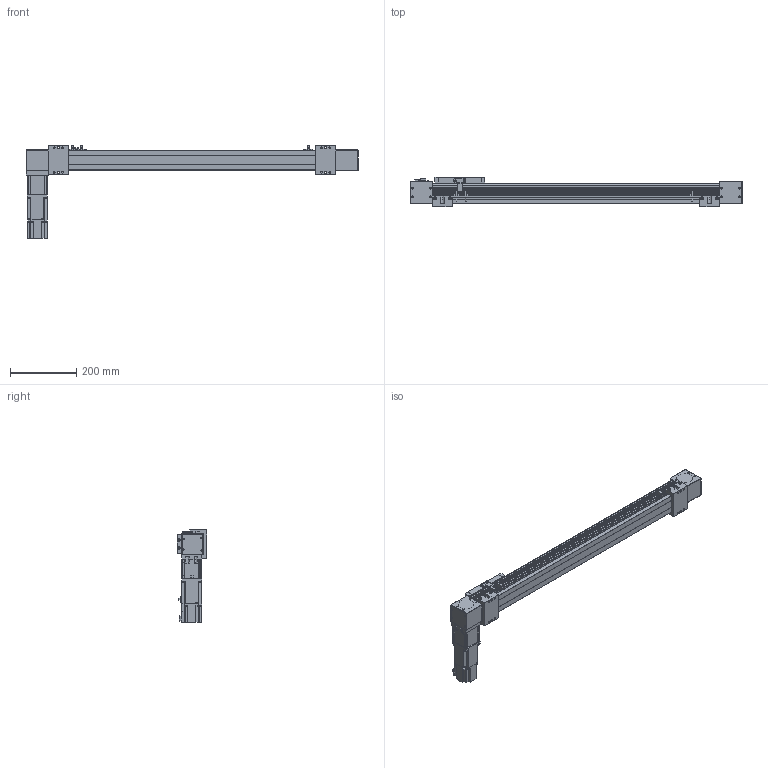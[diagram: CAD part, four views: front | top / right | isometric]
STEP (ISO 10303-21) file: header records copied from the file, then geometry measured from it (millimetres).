
FILE_DESCRIPTION(/* description */ ('STEP AP203'),/* implementation_level */ '2;1');
FILE_NAME(/* name */ 'SK60-P13-S700-BR-T40-C1-N(0)',/* time_stamp */ '2023-04-06T03:59:21+02:00',/* author */ ('License CC BY-ND 4.0'),/* organization */ ('CADENAS'),/* preprocessor_version */ 'ST-DEVELOPER v19.3',/* originating_system */ 'PARTsolutions',/* authorisation */ ' ');
FILE_SCHEMA (('CONFIG_CONTROL_DESIGN'));
Length unit declared in the file: millimetre
Products named in the file (11): SK60-P13-S700-BR-T40-C1-N(0); PSC140-sensor; SK60-S450_seat; SK60-S450-BL-C1_slider; SK60_body3; SK60_body6; SK60-BL_body2; T40-p1; SK60_body5; SK60_body4; SK60-S700-BR-C1_body
Assembly tree (17 placements, depth 2):
  SK60-P13-S700-BR-T40-C1-N(0)
    PSC140-sensor  x3
    SK60-S450_seat  x2
    SK60-S450-BL-C1_slider
    SK60_body3  x3
    SK60_body6  x2
    SK60-BL_body2  x2
    T40-p1
    SK60_body5
    SK60_body4
    SK60-S700-BR-C1_body
Bounding box: 1000 x 90 x 279.1 mm (x, y, z)
Volume: 4009310.7 mm3; surface area: 567400.1 mm2
Topology: 17 solids, 21 shells, 834 faces, 2109 edges, 1394 vertices
Faces by surface type: plane 544, cylinder 266, cone 22, torus 2
Full cylindrical faces by diameter (mm): 2.8 x3, 3.3 x4, 4.2 x8, 4.5 x26, 4.6 x3, 4.917 x16, 5 x2, 5.478 x4, 5.5 x19, 6.5 x4, 8 x4, 8.5 x4, 9.988 x4, 10 x8, 13.556 x1, 14 x1, 14.586 x1, 19.692 x1, 38.432 x2, 43 x1, 44 x3, 47 x2, 50 x2
Entity records: 19371 total; most frequent: DIRECTION 3292, CARTESIAN_POINT 3289, ORIENTED_EDGE 3050, EDGE_CURVE 1525, AXIS2_PLACEMENT_3D 1100, LINE 1092, VECTOR 1092, VERTEX_POINT 1077
